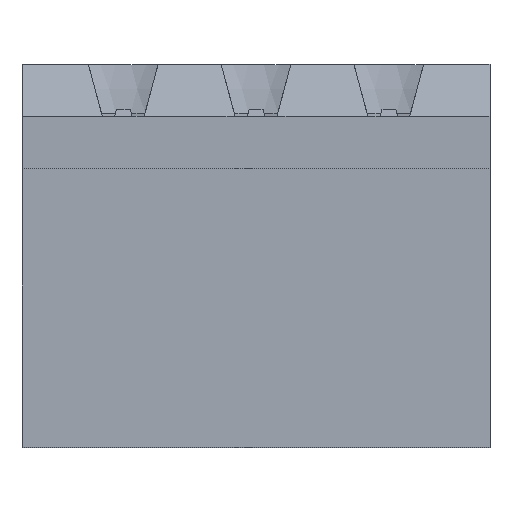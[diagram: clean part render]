
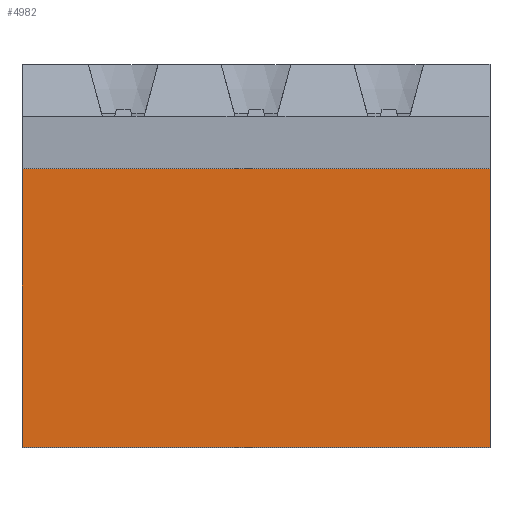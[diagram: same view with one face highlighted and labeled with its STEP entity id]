
A CAD part, top view. The second image highlights one B-rep face of the part: STEP entity #4982.
In plain terms, the highlighted planar face has unit normal (0, 0, 1).
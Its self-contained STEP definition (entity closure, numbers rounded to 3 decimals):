
#328=DIRECTION('',(0.,1.,0.));
#329=VECTOR('',#328,8.);
#330=CARTESIAN_POINT('',(25.245,4.,-0.7));
#331=LINE('',#330,#329);
#1662=DIRECTION('',(-1.,0.,0.));
#1663=VECTOR('',#1662,13.43);
#1664=CARTESIAN_POINT('',(25.245,4.,-0.7));
#1665=LINE('',#1664,#1663);
#1666=DIRECTION('',(0.,1.,0.));
#1667=VECTOR('',#1666,8.);
#1668=CARTESIAN_POINT('',(11.815,4.,-0.7));
#1669=LINE('',#1668,#1667);
#1670=DIRECTION('',(1.,0.,0.));
#1671=VECTOR('',#1670,13.43);
#1672=CARTESIAN_POINT('',(11.815,12.,-0.7));
#1673=LINE('',#1672,#1671);
#2366=CARTESIAN_POINT('',(11.815,12.,-0.7));
#2367=CARTESIAN_POINT('',(25.245,12.,-0.7));
#2368=VERTEX_POINT('',#2366);
#2369=VERTEX_POINT('',#2367);
#2370=CARTESIAN_POINT('',(25.245,4.,-0.7));
#2371=CARTESIAN_POINT('',(11.815,4.,-0.7));
#2372=VERTEX_POINT('',#2370);
#2373=VERTEX_POINT('',#2371);
#4971=CARTESIAN_POINT('',(4.195,12.,-0.7));
#4972=DIRECTION('',(0.,0.,1.));
#4973=DIRECTION('',(0.,-1.,0.));
#4974=AXIS2_PLACEMENT_3D('',#4971,#4972,#4973);
#4975=PLANE('',#4974);
#4976=ORIENTED_EDGE('',*,*,#3281,.T.);
#4977=ORIENTED_EDGE('',*,*,#4772,.T.);
#4978=ORIENTED_EDGE('',*,*,#4963,.T.);
#4979=ORIENTED_EDGE('',*,*,#3258,.F.);
#4980=EDGE_LOOP('',(#4976,#4977,#4978,#4979));
#4981=FACE_OUTER_BOUND('',#4980,.F.);
#4982=ADVANCED_FACE('',(#4981),#4975,.T.);
#3258=EDGE_CURVE('',#2372,#2369,#331,.T.);
#3281=EDGE_CURVE('',#2372,#2373,#1665,.T.);
#4772=EDGE_CURVE('',#2373,#2368,#1669,.T.);
#4963=EDGE_CURVE('',#2368,#2369,#1673,.T.);
